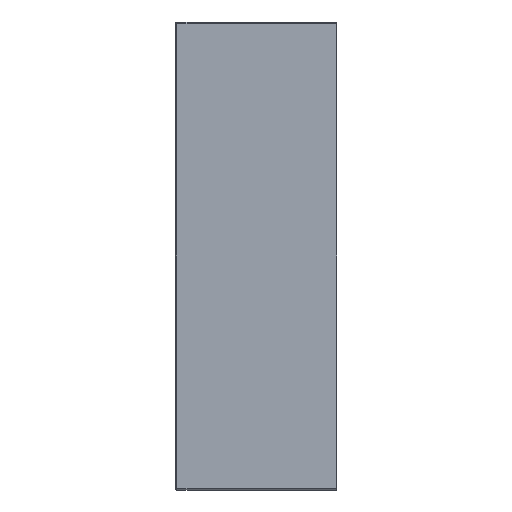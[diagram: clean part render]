
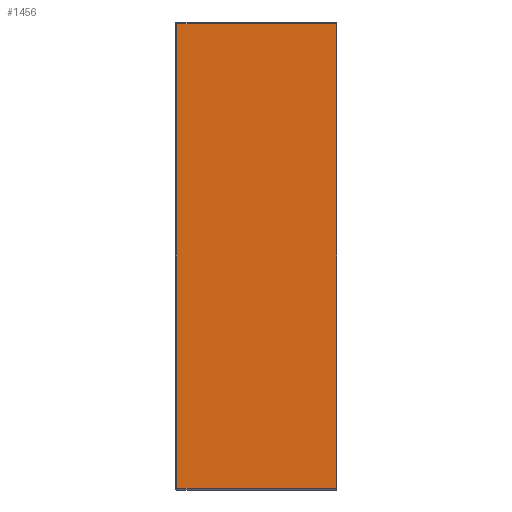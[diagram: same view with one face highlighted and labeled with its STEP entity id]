
A CAD part, left-side view. The second image highlights one B-rep face of the part: STEP entity #1456.
In plain terms, the highlighted planar face has unit normal (-1, 0, 0).
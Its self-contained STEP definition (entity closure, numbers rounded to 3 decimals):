
#74 = VERTEX_POINT ( 'NONE', #2626 ) ;
#421 = EDGE_CURVE ( 'NONE', #505, #1235, #1200, .T. ) ;
#505 = VERTEX_POINT ( 'NONE', #4343 ) ;
#604 = CARTESIAN_POINT ( 'NONE',  ( -325., -155., -223.5 ) ) ;
#1200 = LINE ( 'NONE', #6441, #7229 ) ;
#1220 = DIRECTION ( 'NONE',  ( 0., -1., 0. ) ) ;
#1235 = VERTEX_POINT ( 'NONE', #3666 ) ;
#1354 = DIRECTION ( 'NONE',  ( 0., 0., -1. ) ) ;
#1456 = ADVANCED_FACE ( 'NONE', ( #3550 ), #1783, .T. ) ;
#1626 = LINE ( 'NONE', #604, #6099 ) ;
#1783 = PLANE ( 'NONE',  #7202 ) ;
#2257 = ORIENTED_EDGE ( 'NONE', *, *, #6877, .T. ) ;
#2385 = DIRECTION ( 'NONE',  ( 0., 0., 1. ) ) ;
#2428 = EDGE_CURVE ( 'NONE', #4948, #505, #6406, .T. ) ;
#2576 = DIRECTION ( 'NONE',  ( 0., 0., 1. ) ) ;
#2615 = ORIENTED_EDGE ( 'NONE', *, *, #421, .T. ) ;
#2626 = CARTESIAN_POINT ( 'NONE',  ( -325., -155., -223.5 ) ) ;
#2922 = ORIENTED_EDGE ( 'NONE', *, *, #2428, .T. ) ;
#3119 = LINE ( 'NONE', #4901, #7375 ) ;
#3550 = FACE_OUTER_BOUND ( 'NONE', #5530, .T. ) ;
#3656 = ORIENTED_EDGE ( 'NONE', *, *, #6542, .T. ) ;
#3666 = CARTESIAN_POINT ( 'NONE',  ( -325., -1.5, -223.5 ) ) ;
#4343 = CARTESIAN_POINT ( 'NONE',  ( -325., -1.5, 223.5 ) ) ;
#4704 = VECTOR ( 'NONE', #5722, 1000. ) ;
#4901 = CARTESIAN_POINT ( 'NONE',  ( -325., -155., -225. ) ) ;
#4948 = VERTEX_POINT ( 'NONE', #5214 ) ;
#5148 = CARTESIAN_POINT ( 'NONE',  ( -325., -155., 223.5 ) ) ;
#5214 = CARTESIAN_POINT ( 'NONE',  ( -325., -155., 223.5 ) ) ;
#5530 = EDGE_LOOP ( 'NONE', ( #3656, #2922, #2615, #2257 ) ) ;
#5722 = DIRECTION ( 'NONE',  ( 0., 1., 0. ) ) ;
#5884 = DIRECTION ( 'NONE',  ( -1., 0., 0. ) ) ;
#6099 = VECTOR ( 'NONE', #1220, 1000. ) ;
#6406 = LINE ( 'NONE', #5148, #4704 ) ;
#6439 = CARTESIAN_POINT ( 'NONE',  ( -325., -155., -225. ) ) ;
#6441 = CARTESIAN_POINT ( 'NONE',  ( -325., -1.5, -225. ) ) ;
#6542 = EDGE_CURVE ( 'NONE', #74, #4948, #3119, .T. ) ;
#6877 = EDGE_CURVE ( 'NONE', #1235, #74, #1626, .T. ) ;
#7202 = AXIS2_PLACEMENT_3D ( 'NONE', #6439, #5884, #2385 ) ;
#7229 = VECTOR ( 'NONE', #1354, 1000. ) ;
#7375 = VECTOR ( 'NONE', #2576, 1000. ) ;
